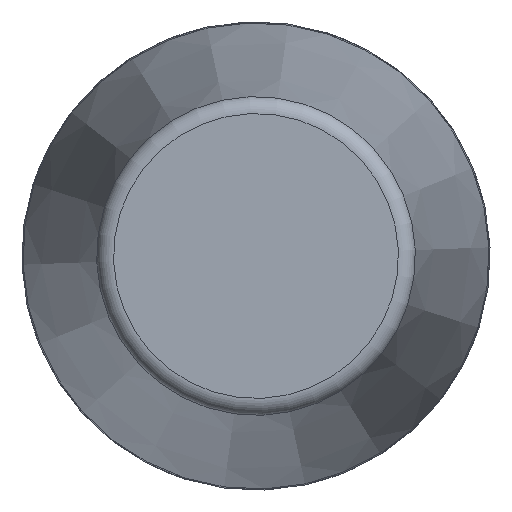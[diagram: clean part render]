
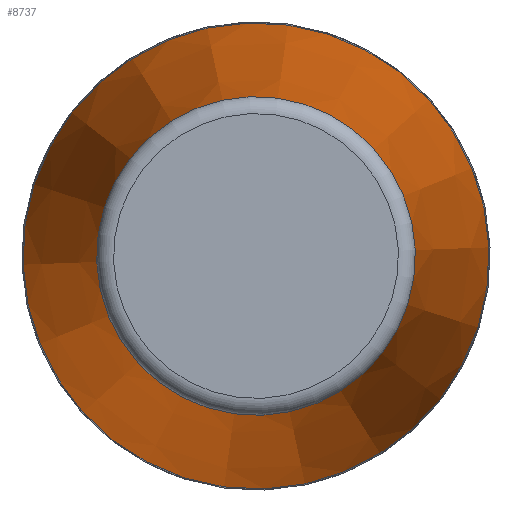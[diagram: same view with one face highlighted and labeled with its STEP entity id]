
A CAD part, front view. The second image highlights one B-rep face of the part: STEP entity #8737.
In plain terms, the highlighted conical face has half-angle 7.125 degrees and reference radius 22.938 mm.
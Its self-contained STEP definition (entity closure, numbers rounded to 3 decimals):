
#65=CONICAL_SURFACE('',#9060,22.938,0.124);
#86=CIRCLE('',#9058,18.719);
#88=CIRCLE('',#9061,27.376);
#89=CIRCLE('',#9062,27.376);
#150=FACE_BOUND('',#1943,.T.);
#1402=FACE_OUTER_BOUND('',#1942,.T.);
#1942=EDGE_LOOP('',(#8049,#8050));
#1943=EDGE_LOOP('',(#8051));
#4242=VERTEX_POINT('',#16545);
#4244=VERTEX_POINT('',#16550);
#4245=VERTEX_POINT('',#16551);
#5512=EDGE_CURVE('',#4242,#4242,#86,.T.);
#5514=EDGE_CURVE('',#4244,#4245,#88,.T.);
#5515=EDGE_CURVE('',#4245,#4244,#89,.T.);
#8049=ORIENTED_EDGE('',*,*,#5514,.T.);
#8050=ORIENTED_EDGE('',*,*,#5515,.T.);
#8051=ORIENTED_EDGE('',*,*,#5512,.F.);
#8737=ADVANCED_FACE('',(#1402,#150),#65,.T.);
#9058=AXIS2_PLACEMENT_3D('',#16546,#10288,#10289);
#9060=AXIS2_PLACEMENT_3D('',#16549,#10292,#10293);
#9061=AXIS2_PLACEMENT_3D('',#16552,#10294,#10295);
#9062=AXIS2_PLACEMENT_3D('',#16553,#10296,#10297);
#10288=DIRECTION('center_axis',(1.,0.,0.));
#10289=DIRECTION('ref_axis',(0.,0.,1.));
#10292=DIRECTION('center_axis',(-1.,0.,0.));
#10293=DIRECTION('ref_axis',(0.,0.,-1.));
#10294=DIRECTION('center_axis',(1.,0.,0.));
#10295=DIRECTION('ref_axis',(0.,0.,-1.));
#10296=DIRECTION('center_axis',(1.,0.,0.));
#10297=DIRECTION('ref_axis',(0.,0.,-1.));
#16545=CARTESIAN_POINT('',(84.748,0.,-18.719));
#16546=CARTESIAN_POINT('Origin',(84.748,0.,
0.));
#16549=CARTESIAN_POINT('Origin',(50.994,0.,0.));
#16550=CARTESIAN_POINT('',(15.488,0.,-27.376));
#16551=CARTESIAN_POINT('',(15.488,0.,27.376));
#16552=CARTESIAN_POINT('Origin',(15.488,0.,0.));
#16553=CARTESIAN_POINT('Origin',(15.488,0.,0.));
